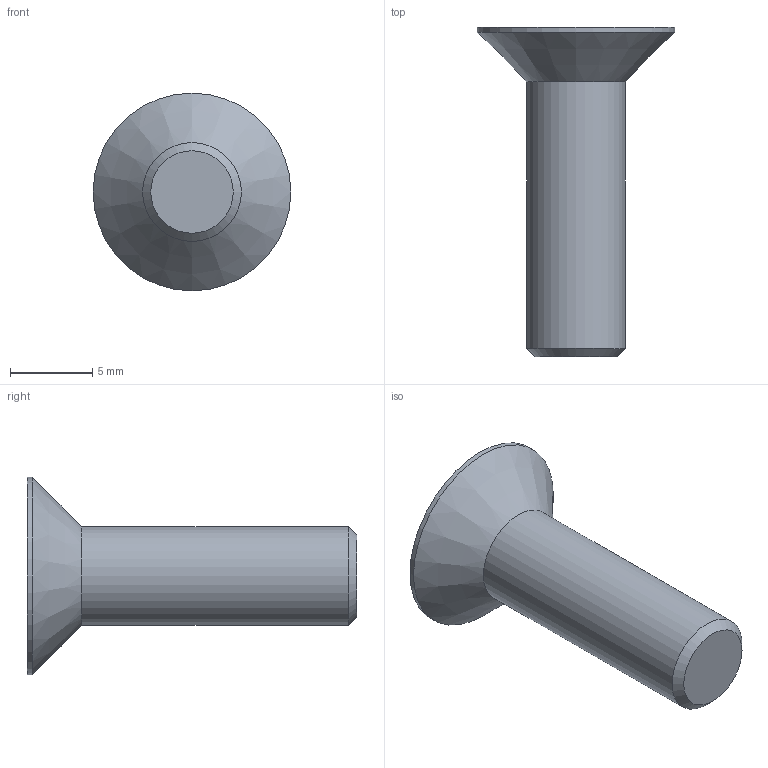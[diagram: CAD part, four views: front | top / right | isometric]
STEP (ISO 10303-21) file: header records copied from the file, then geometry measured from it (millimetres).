
FILE_DESCRIPTION (( 'STEP AP214' ), '1' );
FILE_NAME ('N15605-VITE M6X20.step', '2024-12-03T16:25:44', ( '' ), ( '' ), 'SwSTEP 2.0', 'SolidWorks 2023', '' );
FILE_SCHEMA (( 'AUTOMOTIVE_DESIGN' ));
Length unit declared in the file: millimetre
Products named in the file (1): N15605-VITE M6X20
Bounding box: 12 x 20 x 12 mm (x, y, z)
Volume: 669.3 mm3; surface area: 614 mm2
Topology: 1 solids, 1 shells, 13 faces, 27 edges, 17 vertices
Faces by surface type: plane 9, cylinder 2, cone 2
Full cylindrical faces by diameter (mm): 6 x1, 12 x1
Entity records: 345 total; most frequent: DIRECTION 56, CARTESIAN_POINT 54, ORIENTED_EDGE 46, EDGE_CURVE 23, AXIS2_PLACEMENT_3D 19, EDGE_LOOP 18, LINE 18, VECTOR 18
